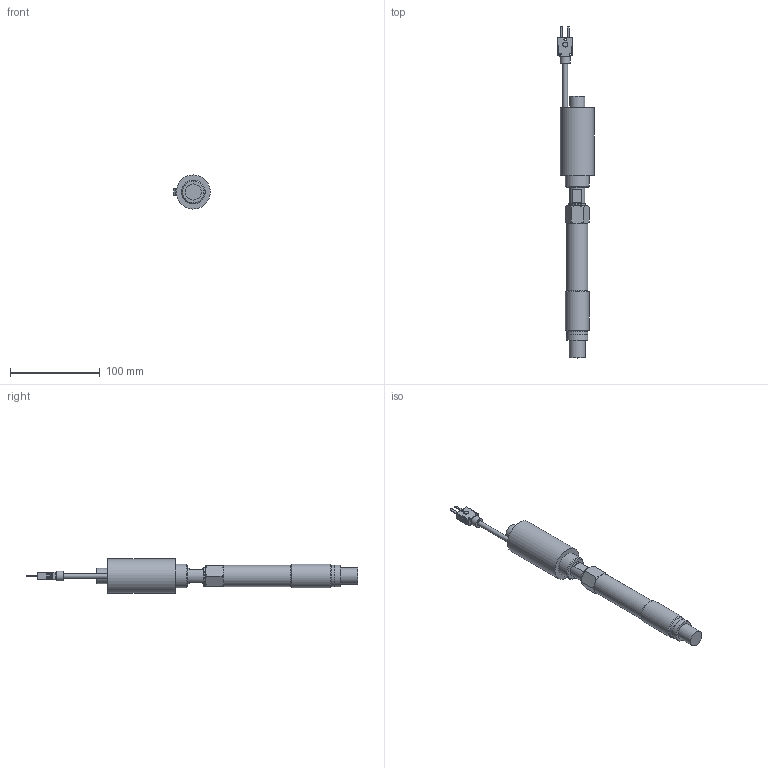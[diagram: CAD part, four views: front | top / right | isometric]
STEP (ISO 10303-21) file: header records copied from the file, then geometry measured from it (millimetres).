
FILE_DESCRIPTION (( 'STEP AP203' ), '1' );
FILE_NAME ('YICZ200PLB-1(0).STEP', '2023-07-28T05:53:42', ( '' ), ( '' ), 'SwSTEP 2.0', 'SolidWorks 2021', '' );
FILE_SCHEMA (( 'CONFIG_CONTROL_DESIGN' ));
Length unit declared in the file: millimetre
Products named in the file (1): YICZ200PLB-1(0)
Bounding box: 40.74 x 370.75 x 37.98 mm (x, y, z)
Volume: 176225.1 mm3; surface area: 46521.4 mm2
Topology: 2 solids, 5 shells, 192 faces, 432 edges, 262 vertices
Faces by surface type: plane 84, cylinder 77, cone 18, sphere 12, torus 1
Full cylindrical faces by diameter (mm): 1.7 x2, 2.6 x3, 4 x1, 4.2 x1, 5.4 x1, 5.5 x1, 11 x1, 16.2 x1, 17 x4, 18 x2, 19 x1, 23.5 x2, 24 x1, 26.441 x1, 26.5 x1, 38 x1
Entity records: 5373 total; most frequent: CARTESIAN_POINT 1244, DIRECTION 852, ORIENTED_EDGE 764, EDGE_CURVE 382, AXIS2_PLACEMENT_3D 336, EDGE_LOOP 254, VERTEX_POINT 252, FACE_OUTER_BOUND 217
